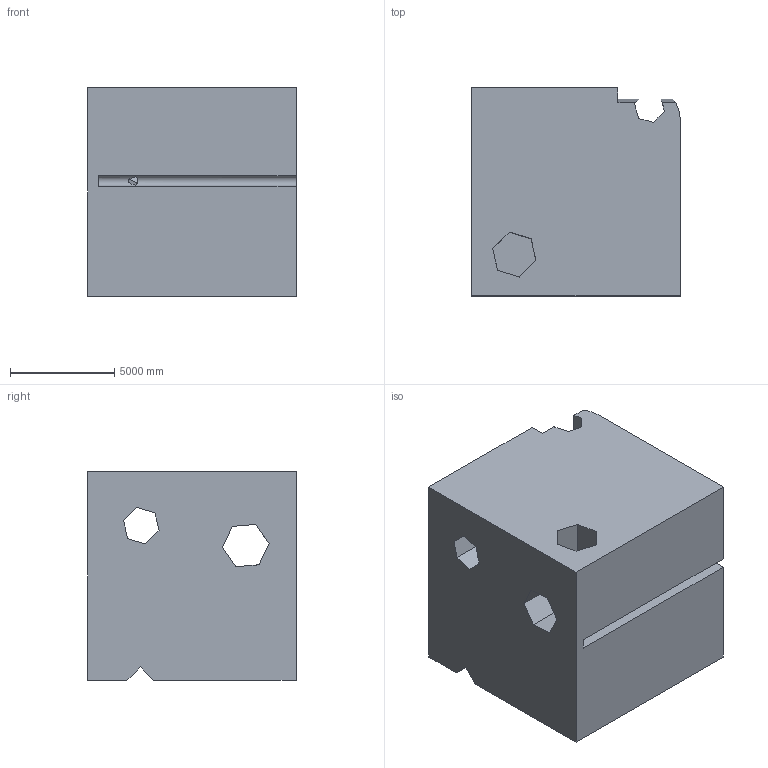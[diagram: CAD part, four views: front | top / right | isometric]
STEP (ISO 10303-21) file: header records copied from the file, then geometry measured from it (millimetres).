
FILE_DESCRIPTION (( 'STEP AP203' ), '1' );
FILE_NAME ('193.STEP', '2022-09-06T14:43:15', ( 'user' ), ( '' ), 'SwSTEP 2.0', 'SolidWorks 2021', '' );
FILE_SCHEMA (( 'CONFIG_CONTROL_DESIGN' ));
Length unit declared in the file: centimetre
Products named in the file (1): 193
Bounding box: 10000 x 10000 x 10000 mm (x, y, z)
Volume: 877315570743.4 mm3; surface area: 807203121.7 mm2
Topology: 1 solids, 1 shells, 58 faces, 168 edges, 112 vertices
Faces by surface type: plane 56, cylinder 2
Entity records: 1969 total; most frequent: CARTESIAN_POINT 351, ORIENTED_EDGE 336, DIRECTION 286, EDGE_CURVE 168, LINE 160, VECTOR 160, VERTEX_POINT 112, EDGE_LOOP 66
